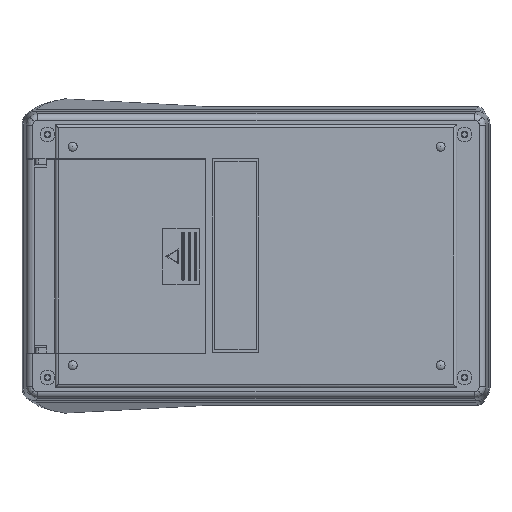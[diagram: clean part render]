
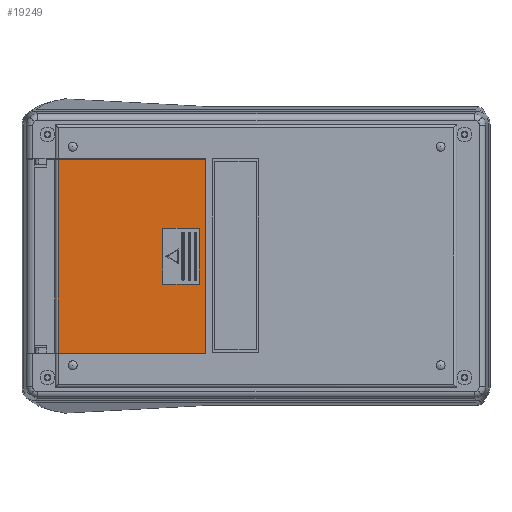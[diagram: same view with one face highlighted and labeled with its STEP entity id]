
A CAD part, front view. The second image highlights one B-rep face of the part: STEP entity #19249.
In plain terms, the highlighted planar face has unit normal (0, -1, 0).
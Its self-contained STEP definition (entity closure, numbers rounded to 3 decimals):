
#155 = DIRECTION ( 'NONE',  ( -1., 0., 0. ) ) ;
#382 = ORIENTED_EDGE ( 'NONE', *, *, #8522, .F. ) ;
#1187 = EDGE_CURVE ( 'NONE', #8058, #12103, #1926, .T. ) ;
#1532 = PLANE ( 'NONE',  #13399 ) ;
#1926 = LINE ( 'NONE', #24212, #6661 ) ;
#2142 = CARTESIAN_POINT ( 'NONE',  ( 25.2, 0., -30.4 ) ) ;
#2669 = LINE ( 'NONE', #17125, #14084 ) ;
#3196 = CARTESIAN_POINT ( 'NONE',  ( 25.2, 0., -30.4 ) ) ;
#3498 = LINE ( 'NONE', #22831, #9523 ) ;
#3557 = DIRECTION ( 'NONE',  ( 0., 0., 1. ) ) ;
#3891 = LINE ( 'NONE', #24575, #14059 ) ;
#4922 = DIRECTION ( 'NONE',  ( 0., 0., -1. ) ) ;
#5221 = DIRECTION ( 'NONE',  ( 1., 0., 0. ) ) ;
#5264 = VERTEX_POINT ( 'NONE', #20130 ) ;
#5473 = CARTESIAN_POINT ( 'NONE',  ( 27.2, 0., 8.75 ) ) ;
#6177 = CARTESIAN_POINT ( 'NONE',  ( 71.5, 0., 30.4 ) ) ;
#6505 = EDGE_CURVE ( 'NONE', #23952, #17683, #25660, .T. ) ;
#6581 = EDGE_CURVE ( 'NONE', #23952, #21603, #2669, .T. ) ;
#6661 = VECTOR ( 'NONE', #22159, 1000. ) ;
#6695 = DIRECTION ( 'NONE',  ( 0., 0., -1. ) ) ;
#6970 = DIRECTION ( 'NONE',  ( 1., 0., 0. ) ) ;
#7217 = CARTESIAN_POINT ( 'NONE',  ( 38.7, 0., 8.75 ) ) ;
#7991 = LINE ( 'NONE', #3196, #12755 ) ;
#8058 = VERTEX_POINT ( 'NONE', #5473 ) ;
#8172 = CARTESIAN_POINT ( 'NONE',  ( 27.2, 0., -8.75 ) ) ;
#8522 = EDGE_CURVE ( 'NONE', #5264, #12010, #3498, .T. ) ;
#8751 = CARTESIAN_POINT ( 'NONE',  ( 25.2, 0., 30.4 ) ) ;
#9313 = VECTOR ( 'NONE', #6695, 1000. ) ;
#9402 = CARTESIAN_POINT ( 'NONE',  ( 38.7, 0., -8.75 ) ) ;
#9523 = VECTOR ( 'NONE', #10570, 1000. ) ;
#10570 = DIRECTION ( 'NONE',  ( 0., 0., 1. ) ) ;
#11013 = EDGE_CURVE ( 'NONE', #12103, #5264, #22158, .T. ) ;
#11365 = ORIENTED_EDGE ( 'NONE', *, *, #6581, .F. ) ;
#12010 = VERTEX_POINT ( 'NONE', #7217 ) ;
#12103 = VERTEX_POINT ( 'NONE', #8172 ) ;
#12755 = VECTOR ( 'NONE', #5221, 1000. ) ;
#13078 = EDGE_LOOP ( 'NONE', ( #13635, #382, #13712, #18226 ) ) ;
#13399 = AXIS2_PLACEMENT_3D ( 'NONE', #25872, #15711, #3557 ) ;
#13635 = ORIENTED_EDGE ( 'NONE', *, *, #14292, .F. ) ;
#13712 = ORIENTED_EDGE ( 'NONE', *, *, #11013, .F. ) ;
#14059 = VECTOR ( 'NONE', #155, 1000. ) ;
#14084 = VECTOR ( 'NONE', #6970, 1000. ) ;
#14292 = EDGE_CURVE ( 'NONE', #12010, #8058, #3891, .T. ) ;
#14523 = ORIENTED_EDGE ( 'NONE', *, *, #6505, .T. ) ;
#14970 = CARTESIAN_POINT ( 'NONE',  ( 71.5, 0., 30.4 ) ) ;
#15094 = EDGE_CURVE ( 'NONE', #21603, #23565, #19457, .T. ) ;
#15711 = DIRECTION ( 'NONE',  ( 0., 1., 0. ) ) ;
#17125 = CARTESIAN_POINT ( 'NONE',  ( 25.2, 0., 30.4 ) ) ;
#17683 = VERTEX_POINT ( 'NONE', #2142 ) ;
#18226 = ORIENTED_EDGE ( 'NONE', *, *, #1187, .F. ) ;
#18256 = CARTESIAN_POINT ( 'NONE',  ( 71.5, 0., -30.4 ) ) ;
#19249 = ADVANCED_FACE ( 'NONE', ( #19979, #26067 ), #1532, .F. ) ;
#19457 = LINE ( 'NONE', #14970, #24259 ) ;
#19678 = DIRECTION ( 'NONE',  ( 1., 0., 0. ) ) ;
#19979 = FACE_BOUND ( 'NONE', #13078, .T. ) ;
#20039 = CARTESIAN_POINT ( 'NONE',  ( 25.2, 0., 30.4 ) ) ;
#20130 = CARTESIAN_POINT ( 'NONE',  ( 38.7, 0., -8.75 ) ) ;
#20630 = ORIENTED_EDGE ( 'NONE', *, *, #15094, .F. ) ;
#21532 = VECTOR ( 'NONE', #19678, 1000. ) ;
#21603 = VERTEX_POINT ( 'NONE', #6177 ) ;
#21688 = EDGE_LOOP ( 'NONE', ( #25663, #20630, #11365, #14523 ) ) ;
#22158 = LINE ( 'NONE', #9402, #21532 ) ;
#22159 = DIRECTION ( 'NONE',  ( 0., 0., -1. ) ) ;
#22831 = CARTESIAN_POINT ( 'NONE',  ( 38.7, 0., 8.75 ) ) ;
#22992 = EDGE_CURVE ( 'NONE', #17683, #23565, #7991, .T. ) ;
#23565 = VERTEX_POINT ( 'NONE', #18256 ) ;
#23952 = VERTEX_POINT ( 'NONE', #20039 ) ;
#24212 = CARTESIAN_POINT ( 'NONE',  ( 27.2, 0., 8.75 ) ) ;
#24259 = VECTOR ( 'NONE', #4922, 1000. ) ;
#24575 = CARTESIAN_POINT ( 'NONE',  ( 38.7, 0., 8.75 ) ) ;
#25660 = LINE ( 'NONE', #8751, #9313 ) ;
#25663 = ORIENTED_EDGE ( 'NONE', *, *, #22992, .T. ) ;
#25872 = CARTESIAN_POINT ( 'NONE',  ( 25.2, 0., 30.4 ) ) ;
#26067 = FACE_OUTER_BOUND ( 'NONE', #21688, .T. ) ;
